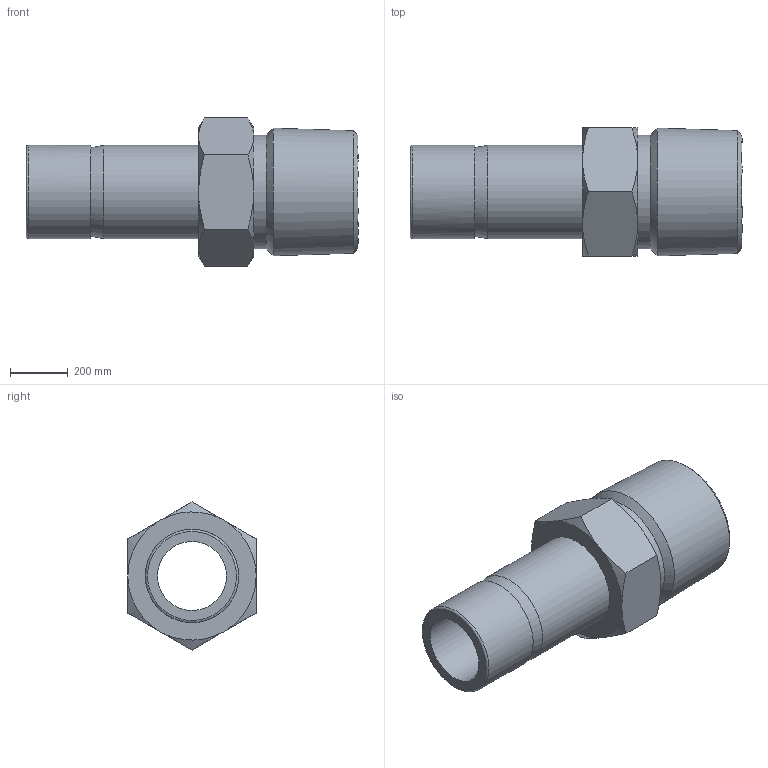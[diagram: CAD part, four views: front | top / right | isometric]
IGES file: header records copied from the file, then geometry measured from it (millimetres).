
Global section: file name: SMA-8-6N; native system: Autodesk Inventor 2016; preprocessor: unknown; author: DESIGNPC2; date: 20151221.100911; units: millimetre
Bounding box: 1148.08 x 443.48 x 512.09 mm (x, y, z)
Volume: 80999168.3 mm3; surface area: 2500303.2 mm2
Topology: 1 solids, 1 shells, 33 faces, 81 edges, 53 vertices
Faces by surface type: bspline 33
